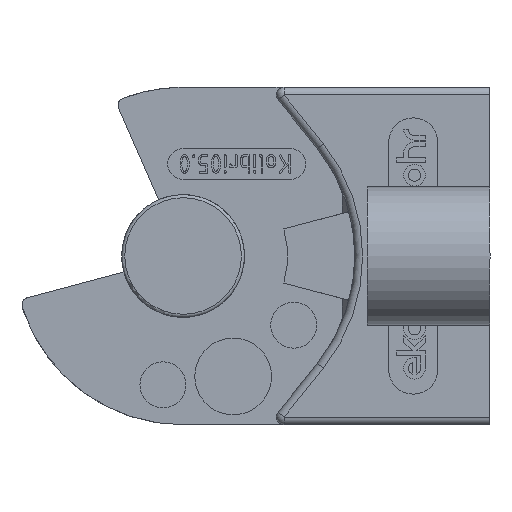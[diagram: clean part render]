
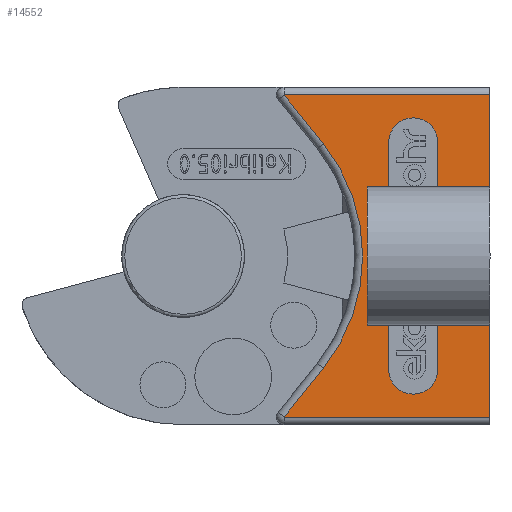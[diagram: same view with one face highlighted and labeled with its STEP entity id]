
A CAD part, left-side view. The second image highlights one B-rep face of the part: STEP entity #14552.
In plain terms, the highlighted planar face has unit normal (-1, 0, 0) as drawn and (0, 1, 0) by its records, which use the part's own axes.
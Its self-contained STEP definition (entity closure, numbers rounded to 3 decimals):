
#13700=CARTESIAN_POINT('',(13.4,5.6,4.5));
#13701=VERTEX_POINT('',#13700);
#13708=CARTESIAN_POINT('',(13.4,5.6,-4.5));
#13709=VERTEX_POINT('',#13708);
#13852=CARTESIAN_POINT('',(16.6,5.6,-4.5));
#13853=VERTEX_POINT('',#13852);
#13860=CARTESIAN_POINT('',(16.6,5.6,4.5));
#13861=VERTEX_POINT('',#13860);
#14229=CARTESIAN_POINT('',(12.,5.6,-4.5));
#14230=VERTEX_POINT('',#14229);
#14247=CARTESIAN_POINT('',(20.,5.6,-4.5));
#14248=VERTEX_POINT('',#14247);
#14255=CARTESIAN_POINT('',(16.6,5.6,-4.5));
#14256=DIRECTION('',(1.0,0.0,0.0));
#14257=VECTOR('',#14256,3.4);
#14258=LINE('',#14255,#14257);
#14259=EDGE_CURVE('',#13853,#14248,#14258,.T.);
#14269=CARTESIAN_POINT('',(12.,5.6,-4.5));
#14270=DIRECTION('',(1.0,0.0,0.0));
#14271=VECTOR('',#14270,1.4);
#14272=LINE('',#14269,#14271);
#14273=EDGE_CURVE('',#14230,#13709,#14272,.T.);
#14316=CARTESIAN_POINT('',(12.,5.6,4.5));
#14317=VERTEX_POINT('',#14316);
#14324=CARTESIAN_POINT('',(13.4,5.6,4.5));
#14325=DIRECTION('',(-1.0,0.0,0.0));
#14326=VECTOR('',#14325,1.4);
#14327=LINE('',#14324,#14326);
#14328=EDGE_CURVE('',#13701,#14317,#14327,.T.);
#14345=CARTESIAN_POINT('',(20.,5.6,4.5));
#14346=VERTEX_POINT('',#14345);
#14347=CARTESIAN_POINT('',(20.,5.6,4.5));
#14348=DIRECTION('',(-1.0,0.0,0.0));
#14349=VECTOR('',#14348,3.4);
#14350=LINE('',#14347,#14349);
#14351=EDGE_CURVE('',#14346,#13861,#14350,.T.);
#14368=CARTESIAN_POINT('',(12.,5.6,4.5));
#14369=DIRECTION('',(0.0,0.0,-1.0));
#14370=VECTOR('',#14369,9.);
#14371=LINE('',#14368,#14370);
#14372=EDGE_CURVE('',#14317,#14230,#14371,.T.);
#14439=CARTESIAN_POINT('',(19.728,5.6,0.));
#14440=DIRECTION('',(0.0,1.0,0.0));
#14441=DIRECTION('',(0.0,0.0,1.0));
#14442=AXIS2_PLACEMENT_3D('',#14439,#14440,#14441);
#14443=PLANE('',#14442);
#14444=ORIENTED_EDGE('',*,*,#14328,.T.);
#14445=ORIENTED_EDGE('',*,*,#14372,.T.);
#14446=ORIENTED_EDGE('',*,*,#14273,.T.);
#14447=CARTESIAN_POINT('',(13.4,5.6,-7.4));
#14448=VERTEX_POINT('',#14447);
#14449=CARTESIAN_POINT('',(13.4,5.6,-4.5));
#14450=DIRECTION('',(0.0,0.0,-1.0));
#14451=VECTOR('',#14450,2.9);
#14452=LINE('',#14449,#14451);
#14453=EDGE_CURVE('',#13709,#14448,#14452,.T.);
#14454=ORIENTED_EDGE('',*,*,#14453,.T.);
#14455=CARTESIAN_POINT('',(16.6,5.6,-7.4));
#14456=VERTEX_POINT('',#14455);
#14457=CARTESIAN_POINT('',(15.,5.6,-7.4));
#14458=DIRECTION('',(0.0,-1.0,0.0));
#14459=DIRECTION('',(-1.0,0.0,0.0));
#14460=AXIS2_PLACEMENT_3D('',#14457,#14458,#14459);
#14461=CIRCLE('',#14460,1.6);
#14462=EDGE_CURVE('',#14448,#14456,#14461,.T.);
#14463=ORIENTED_EDGE('',*,*,#14462,.T.);
#14464=CARTESIAN_POINT('',(16.6,5.6,-7.4));
#14465=DIRECTION('',(0.0,0.0,1.0));
#14466=VECTOR('',#14465,2.9);
#14467=LINE('',#14464,#14466);
#14468=EDGE_CURVE('',#14456,#13853,#14467,.T.);
#14469=ORIENTED_EDGE('',*,*,#14468,.T.);
#14470=ORIENTED_EDGE('',*,*,#14259,.T.);
#14471=CARTESIAN_POINT('',(20.,5.6,-10.5));
#14472=VERTEX_POINT('',#14471);
#14473=CARTESIAN_POINT('',(20.,5.6,-4.5));
#14474=DIRECTION('',(0.0,0.0,-1.0));
#14475=VECTOR('',#14474,6.);
#14476=LINE('',#14473,#14475);
#14477=EDGE_CURVE('',#14248,#14472,#14476,.T.);
#14478=ORIENTED_EDGE('',*,*,#14477,.T.);
#14479=CARTESIAN_POINT('',(6.581,5.6,-10.5));
#14480=VERTEX_POINT('',#14479);
#14481=CARTESIAN_POINT('',(6.581,5.6,-10.5));
#14482=DIRECTION('',(1.0,0.0,0.0));
#14483=VECTOR('',#14482,13.419);
#14484=LINE('',#14481,#14483);
#14485=EDGE_CURVE('',#14480,#14472,#14484,.T.);
#14486=ORIENTED_EDGE('',*,*,#14485,.F.);
#14487=CARTESIAN_POINT('',(9.132,5.6,-7.314));
#14488=VERTEX_POINT('',#14487);
#14489=CARTESIAN_POINT('',(9.132,5.6,-7.314));
#14490=DIRECTION('',(-0.625,0.0,-0.781));
#14491=VECTOR('',#14490,4.082);
#14492=LINE('',#14489,#14491);
#14493=EDGE_CURVE('',#14488,#14480,#14492,.T.);
#14494=ORIENTED_EDGE('',*,*,#14493,.F.);
#14495=CARTESIAN_POINT('',(9.132,5.6,7.314));
#14496=VERTEX_POINT('',#14495);
#14497=CARTESIAN_POINT('',(0.0,5.6,0.));
#14498=DIRECTION('',(0.0,1.0,0.0));
#14499=DIRECTION('',(1.0,0.0,0.0));
#14500=AXIS2_PLACEMENT_3D('',#14497,#14498,#14499);
#14501=CIRCLE('',#14500,11.7);
#14502=EDGE_CURVE('',#14496,#14488,#14501,.T.);
#14503=ORIENTED_EDGE('',*,*,#14502,.F.);
#14504=CARTESIAN_POINT('',(6.581,5.6,10.5));
#14505=VERTEX_POINT('',#14504);
#14506=CARTESIAN_POINT('',(6.581,5.6,10.5));
#14507=DIRECTION('',(0.625,0.0,-0.781));
#14508=VECTOR('',#14507,4.082);
#14509=LINE('',#14506,#14508);
#14510=EDGE_CURVE('',#14505,#14496,#14509,.T.);
#14511=ORIENTED_EDGE('',*,*,#14510,.F.);
#14512=CARTESIAN_POINT('',(20.,5.6,10.5));
#14513=VERTEX_POINT('',#14512);
#14514=CARTESIAN_POINT('',(20.,5.6,10.5));
#14515=DIRECTION('',(-1.0,0.0,0.0));
#14516=VECTOR('',#14515,13.419);
#14517=LINE('',#14514,#14516);
#14518=EDGE_CURVE('',#14513,#14505,#14517,.T.);
#14519=ORIENTED_EDGE('',*,*,#14518,.F.);
#14520=CARTESIAN_POINT('',(20.,5.6,10.5));
#14521=DIRECTION('',(0.0,0.0,-1.0));
#14522=VECTOR('',#14521,6.);
#14523=LINE('',#14520,#14522);
#14524=EDGE_CURVE('',#14513,#14346,#14523,.T.);
#14525=ORIENTED_EDGE('',*,*,#14524,.T.);
#14526=ORIENTED_EDGE('',*,*,#14351,.T.);
#14527=CARTESIAN_POINT('',(16.6,5.6,7.4));
#14528=VERTEX_POINT('',#14527);
#14529=CARTESIAN_POINT('',(16.6,5.6,4.5));
#14530=DIRECTION('',(0.0,0.0,1.0));
#14531=VECTOR('',#14530,2.9);
#14532=LINE('',#14529,#14531);
#14533=EDGE_CURVE('',#13861,#14528,#14532,.T.);
#14534=ORIENTED_EDGE('',*,*,#14533,.T.);
#14535=CARTESIAN_POINT('',(13.4,5.6,7.4));
#14536=VERTEX_POINT('',#14535);
#14537=CARTESIAN_POINT('',(15.,5.6,7.4));
#14538=DIRECTION('',(0.0,-1.0,0.0));
#14539=DIRECTION('',(-1.0,0.0,0.0));
#14540=AXIS2_PLACEMENT_3D('',#14537,#14538,#14539);
#14541=CIRCLE('',#14540,1.6);
#14542=EDGE_CURVE('',#14528,#14536,#14541,.T.);
#14543=ORIENTED_EDGE('',*,*,#14542,.T.);
#14544=CARTESIAN_POINT('',(13.4,5.6,7.4));
#14545=DIRECTION('',(0.0,0.0,-1.0));
#14546=VECTOR('',#14545,2.9);
#14547=LINE('',#14544,#14546);
#14548=EDGE_CURVE('',#14536,#13701,#14547,.T.);
#14549=ORIENTED_EDGE('',*,*,#14548,.T.);
#14550=EDGE_LOOP('',(#14444,#14445,#14446,#14454,#14463,#14469,#14470,#14478,#14486,#14494,#14503,#14511,#14519,#14525,#14526,#14534,#14543,#14549));
#14551=FACE_OUTER_BOUND('',#14550,.T.);
#14552=ADVANCED_FACE('',(#14551),#14443,.T.);
